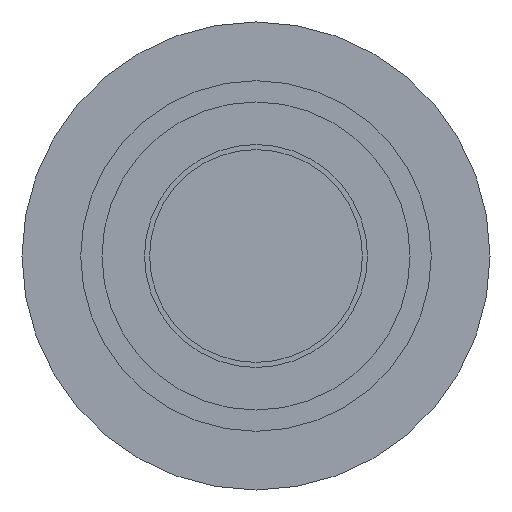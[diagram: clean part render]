
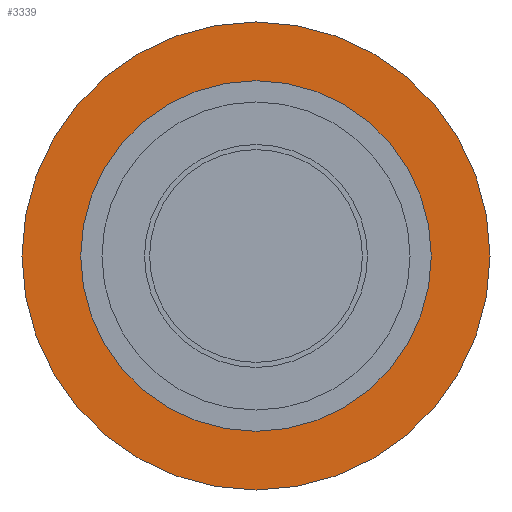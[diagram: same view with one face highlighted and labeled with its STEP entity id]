
A CAD part, front view. The second image highlights one B-rep face of the part: STEP entity #3339.
In plain terms, the highlighted planar face has unit normal (0, -1, 0).
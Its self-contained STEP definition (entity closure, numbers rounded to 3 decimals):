
#591=CARTESIAN_POINT('',(0.,0.,20.6));
#592=VERTEX_POINT('',#591);
#601=CARTESIAN_POINT('',(-20.6,0.,0.0));
#602=VERTEX_POINT('',#601);
#603=CARTESIAN_POINT('',(0.,0.,0.0));
#604=DIRECTION('',(0.0,1.0,0.0));
#605=DIRECTION('',(-1.0,0.0,0.0));
#606=AXIS2_PLACEMENT_3D('',#603,#604,#605);
#607=CIRCLE('',#606,20.6);
#608=EDGE_CURVE('',#602,#592,#607,.T.);
#885=CARTESIAN_POINT('',(0.,0.,-27.5));
#886=VERTEX_POINT('',#885);
#902=CARTESIAN_POINT('',(27.5,0.,0.));
#903=VERTEX_POINT('',#902);
#910=CARTESIAN_POINT('',(0.,0.,0.0));
#911=DIRECTION('',(0.0,1.0,0.0));
#912=DIRECTION('',(-1.0,0.0,0.0));
#913=AXIS2_PLACEMENT_3D('',#910,#911,#912);
#914=CIRCLE('',#913,27.5);
#915=EDGE_CURVE('',#903,#886,#914,.T.);
#1087=CARTESIAN_POINT('',(0.,0.,27.5));
#1088=VERTEX_POINT('',#1087);
#1104=CARTESIAN_POINT('',(-27.5,0.,0.0));
#1105=VERTEX_POINT('',#1104);
#1112=CARTESIAN_POINT('',(0.,0.,0.0));
#1113=DIRECTION('',(0.0,1.0,0.0));
#1114=DIRECTION('',(-1.0,0.0,0.0));
#1115=AXIS2_PLACEMENT_3D('',#1112,#1113,#1114);
#1116=CIRCLE('',#1115,27.5);
#1117=EDGE_CURVE('',#1105,#1088,#1116,.T.);
#1373=CARTESIAN_POINT('',(0.,0.,-20.6));
#1374=VERTEX_POINT('',#1373);
#1383=CARTESIAN_POINT('',(20.6,0.,0.));
#1384=VERTEX_POINT('',#1383);
#1385=CARTESIAN_POINT('',(0.,0.,0.0));
#1386=DIRECTION('',(0.0,1.0,0.0));
#1387=DIRECTION('',(-1.0,0.0,0.0));
#1388=AXIS2_PLACEMENT_3D('',#1385,#1386,#1387);
#1389=CIRCLE('',#1388,20.6);
#1390=EDGE_CURVE('',#1384,#1374,#1389,.T.);
#2314=CARTESIAN_POINT('',(0.,0.,0.0));
#2315=DIRECTION('',(0.0,1.0,0.0));
#2316=DIRECTION('',(-1.0,0.0,0.0));
#2317=AXIS2_PLACEMENT_3D('',#2314,#2315,#2316);
#2318=CIRCLE('',#2317,20.6);
#2319=EDGE_CURVE('',#1374,#602,#2318,.T.);
#2658=CARTESIAN_POINT('',(0.,0.,0.0));
#2659=DIRECTION('',(0.0,1.0,0.0));
#2660=DIRECTION('',(-1.0,0.0,0.0));
#2661=AXIS2_PLACEMENT_3D('',#2658,#2659,#2660);
#2662=CIRCLE('',#2661,27.5);
#2663=EDGE_CURVE('',#1088,#903,#2662,.T.);
#2926=CARTESIAN_POINT('',(0.,0.,0.0));
#2927=DIRECTION('',(0.0,1.0,0.0));
#2928=DIRECTION('',(-1.0,0.0,0.0));
#2929=AXIS2_PLACEMENT_3D('',#2926,#2927,#2928);
#2930=CIRCLE('',#2929,27.5);
#2931=EDGE_CURVE('',#886,#1105,#2930,.T.);
#3312=CARTESIAN_POINT('',(0.,0.,0.0));
#3313=DIRECTION('',(0.0,1.0,0.0));
#3314=DIRECTION('',(-1.0,0.0,0.0));
#3315=AXIS2_PLACEMENT_3D('',#3312,#3313,#3314);
#3316=CIRCLE('',#3315,20.6);
#3317=EDGE_CURVE('',#592,#1384,#3316,.T.);
#3322=CARTESIAN_POINT('',(-30.25,0.,30.25));
#3323=DIRECTION('',(0.0,-1.0,0.0));
#3324=DIRECTION('',(0.0,0.0,-1.0));
#3325=AXIS2_PLACEMENT_3D('',#3322,#3323,#3324);
#3326=PLANE('',#3325);
#3327=ORIENTED_EDGE('',*,*,#1117,.F.);
#3328=ORIENTED_EDGE('',*,*,#2931,.F.);
#3329=ORIENTED_EDGE('',*,*,#915,.F.);
#3330=ORIENTED_EDGE('',*,*,#2663,.F.);
#3331=EDGE_LOOP('',(#3327,#3328,#3329,#3330));
#3332=FACE_OUTER_BOUND('',#3331,.T.);
#3333=ORIENTED_EDGE('',*,*,#608,.T.);
#3334=ORIENTED_EDGE('',*,*,#3317,.T.);
#3335=ORIENTED_EDGE('',*,*,#1390,.T.);
#3336=ORIENTED_EDGE('',*,*,#2319,.T.);
#3337=EDGE_LOOP('',(#3333,#3334,#3335,#3336));
#3338=FACE_BOUND('',#3337,.T.);
#3339=ADVANCED_FACE('',(#3332,#3338),#3326,.T.);
